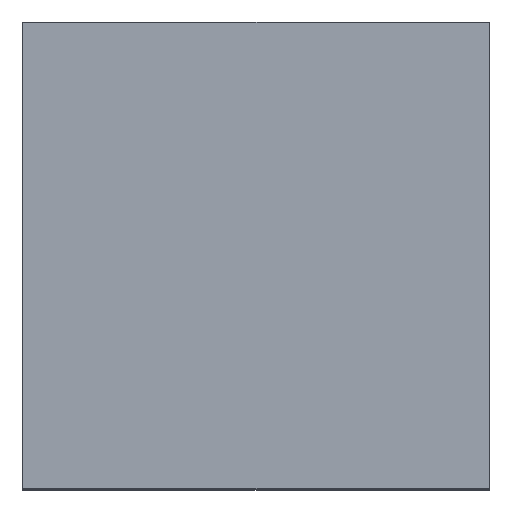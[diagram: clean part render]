
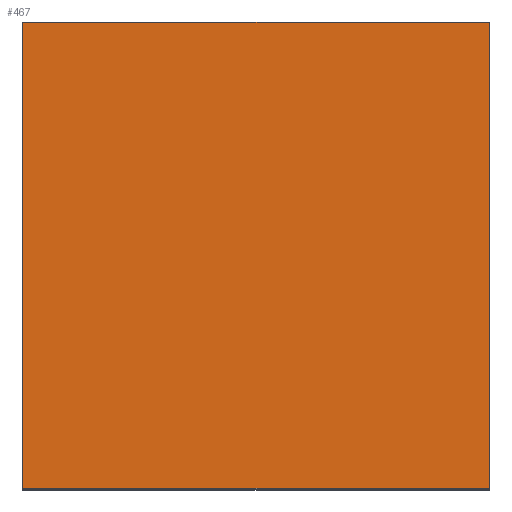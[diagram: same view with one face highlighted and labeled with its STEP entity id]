
A CAD part, top view. The second image highlights one B-rep face of the part: STEP entity #467.
In plain terms, the highlighted planar face has unit normal (0, 0, 1).
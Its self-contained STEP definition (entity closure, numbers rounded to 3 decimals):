
#1 = VECTOR ( 'NONE', #1026, 1000. ) ;
#4 = ORIENTED_EDGE ( 'NONE', *, *, #199, .F. ) ;
#13 = LINE ( 'NONE', #355, #810 ) ;
#45 = ORIENTED_EDGE ( 'NONE', *, *, #1205, .T. ) ;
#56 = VERTEX_POINT ( 'NONE', #1287 ) ;
#106 = CARTESIAN_POINT ( 'NONE',  ( -450., 450., 450. ) ) ;
#107 = DIRECTION ( 'NONE',  ( 0., 0., 1. ) ) ;
#129 = CARTESIAN_POINT ( 'NONE',  ( -450., 0., 450. ) ) ;
#146 = LINE ( 'NONE', #681, #1 ) ;
#199 = EDGE_CURVE ( 'NONE', #347, #56, #13, .T. ) ;
#253 = DIRECTION ( 'NONE',  ( 0., 1., 0. ) ) ;
#255 = DIRECTION ( 'NONE',  ( -1., 0., 0. ) ) ;
#342 = AXIS2_PLACEMENT_3D ( 'NONE', #778, #107, #445 ) ;
#347 = VERTEX_POINT ( 'NONE', #980 ) ;
#355 = CARTESIAN_POINT ( 'NONE',  ( 0., 0., 450. ) ) ;
#421 = VECTOR ( 'NONE', #829, 1000. ) ;
#445 = DIRECTION ( 'NONE',  ( 1., 0., 0. ) ) ;
#467 = ADVANCED_FACE ( 'NONE', ( #1242 ), #650, .T. ) ;
#598 = LINE ( 'NONE', #129, #421 ) ;
#650 = PLANE ( 'NONE',  #342 ) ;
#681 = CARTESIAN_POINT ( 'NONE',  ( 0., 450., 450. ) ) ;
#703 = EDGE_LOOP ( 'NONE', ( #45, #823, #934, #4 ) ) ;
#775 = EDGE_CURVE ( 'NONE', #917, #1008, #146, .T. ) ;
#778 = CARTESIAN_POINT ( 'NONE',  ( 0., 0., 450. ) ) ;
#810 = VECTOR ( 'NONE', #255, 1000. ) ;
#823 = ORIENTED_EDGE ( 'NONE', *, *, #775, .T. ) ;
#825 = LINE ( 'NONE', #1261, #1025 ) ;
#829 = DIRECTION ( 'NONE',  ( 0., 1., 0. ) ) ;
#853 = CARTESIAN_POINT ( 'NONE',  ( 0., 450., 450. ) ) ;
#917 = VERTEX_POINT ( 'NONE', #853 ) ;
#934 = ORIENTED_EDGE ( 'NONE', *, *, #1191, .F. ) ;
#980 = CARTESIAN_POINT ( 'NONE',  ( 0., 0., 450. ) ) ;
#1008 = VERTEX_POINT ( 'NONE', #106 ) ;
#1025 = VECTOR ( 'NONE', #253, 1000. ) ;
#1026 = DIRECTION ( 'NONE',  ( -1., 0., 0. ) ) ;
#1191 = EDGE_CURVE ( 'NONE', #56, #1008, #598, .T. ) ;
#1205 = EDGE_CURVE ( 'NONE', #347, #917, #825, .T. ) ;
#1242 = FACE_OUTER_BOUND ( 'NONE', #703, .T. ) ;
#1261 = CARTESIAN_POINT ( 'NONE',  ( 0., 0., 450. ) ) ;
#1287 = CARTESIAN_POINT ( 'NONE',  ( -450., 0., 450. ) ) ;
